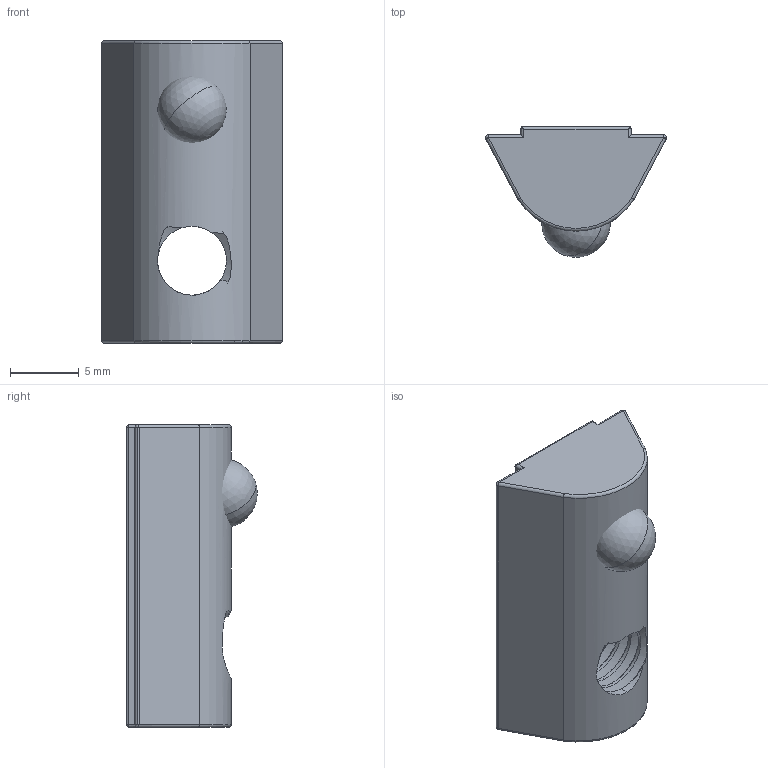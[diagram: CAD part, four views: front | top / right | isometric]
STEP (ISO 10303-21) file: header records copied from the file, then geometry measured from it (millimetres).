
FILE_DESCRIPTION (( 'STEP AP214' ), '1' );
FILE_NAME ('1.2126 T-uramutteri M6 kuulalla.STEP', '2025-05-06T11:31:55', ( '' ), ( '' ), 'SwSTEP 2.0', 'SolidWorks 2024', '' );
FILE_SCHEMA (( 'AUTOMOTIVE_DESIGN' ));
Length unit declared in the file: millimetre
Products named in the file (1): 1.2126 T-uramutteri M6 kuulalla
Bounding box: 13.14 x 9.49 x 22 mm (x, y, z)
Volume: 1399.1 mm3; surface area: 1155.7 mm2
Topology: 2 solids, 2 shells, 69 faces, 172 edges, 98 vertices
Faces by surface type: cylinder 40, plane 10, bspline 9, sphere 8, torus 2
Entity records: 5710 total; most frequent: CARTESIAN_POINT 4320, ORIENTED_EDGE 318, DIRECTION 243, EDGE_CURVE 159, VERTEX_POINT 95, AXIS2_PLACEMENT_3D 92, EDGE_LOOP 72, FACE_OUTER_BOUND 69
